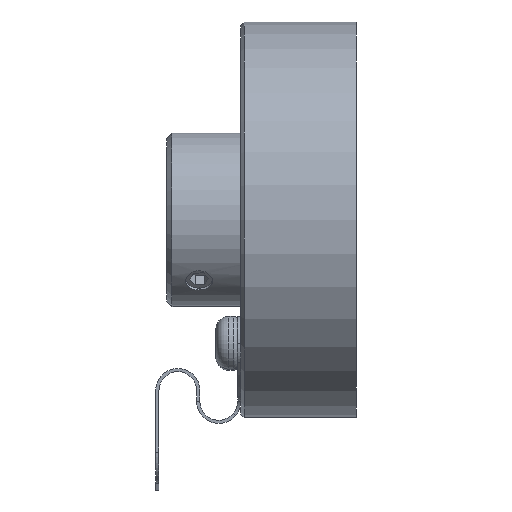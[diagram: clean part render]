
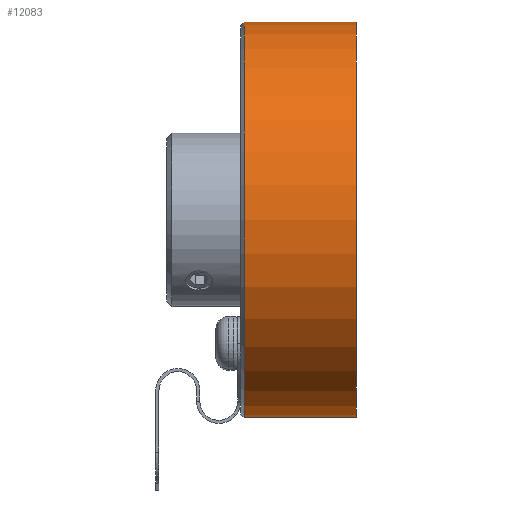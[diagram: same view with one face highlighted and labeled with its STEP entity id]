
A CAD part, front view. The second image highlights one B-rep face of the part: STEP entity #12083.
In plain terms, the highlighted cylindrical face has radius 18.25 mm (diameter 36.5 mm), a partial arc.
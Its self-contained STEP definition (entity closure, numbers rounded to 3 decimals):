
#413 = LINE ( 'NONE', #8073, #12567 ) ;
#558 = VECTOR ( 'NONE', #1998, 1000. ) ;
#788 = CARTESIAN_POINT ( 'NONE',  ( -1.3, 0., -18.25 ) ) ;
#851 = AXIS2_PLACEMENT_3D ( 'NONE', #8011, #1728, #9037 ) ;
#1276 = ORIENTED_EDGE ( 'NONE', *, *, #6406, .T. ) ;
#1481 = CYLINDRICAL_SURFACE ( 'NONE', #11554, 18.25 ) ;
#1728 = DIRECTION ( 'NONE',  ( -1., 0., 0. ) ) ;
#1998 = DIRECTION ( 'NONE',  ( -1., 0., 0. ) ) ;
#2505 = DIRECTION ( 'NONE',  ( 0., 0., 1. ) ) ;
#3105 = VERTEX_POINT ( 'NONE', #5950 ) ;
#3468 = CARTESIAN_POINT ( 'NONE',  ( -11.65, 0., 0. ) ) ;
#3892 = CARTESIAN_POINT ( 'NONE',  ( -11.65, 0., 18.25 ) ) ;
#4376 = EDGE_CURVE ( 'NONE', #9361, #9203, #11573, .T. ) ;
#4460 = EDGE_CURVE ( 'NONE', #7680, #3105, #8619, .T. ) ;
#4641 = DIRECTION ( 'NONE',  ( -1., 0., 0. ) ) ;
#5950 = CARTESIAN_POINT ( 'NONE',  ( -11.65, 0., -18.25 ) ) ;
#6402 = FACE_OUTER_BOUND ( 'NONE', #11951, .T. ) ;
#6406 = EDGE_CURVE ( 'NONE', #9203, #7680, #9094, .T. ) ;
#7130 = DIRECTION ( 'NONE',  ( -1., 0., 0. ) ) ;
#7453 = CARTESIAN_POINT ( 'NONE',  ( -1.3, 0., 18.25 ) ) ;
#7680 = VERTEX_POINT ( 'NONE', #3892 ) ;
#7889 = ORIENTED_EDGE ( 'NONE', *, *, #4460, .T. ) ;
#8011 = CARTESIAN_POINT ( 'NONE',  ( -1.3, 0., 0. ) ) ;
#8073 = CARTESIAN_POINT ( 'NONE',  ( -1000., 0., -18.25 ) ) ;
#8619 = CIRCLE ( 'NONE', #12907, 18.25 ) ;
#8867 = CARTESIAN_POINT ( 'NONE',  ( -1000., 0., 0. ) ) ;
#9037 = DIRECTION ( 'NONE',  ( 0., 0., 1. ) ) ;
#9094 = LINE ( 'NONE', #10286, #558 ) ;
#9203 = VERTEX_POINT ( 'NONE', #7453 ) ;
#9361 = VERTEX_POINT ( 'NONE', #788 ) ;
#9389 = EDGE_CURVE ( 'NONE', #9361, #3105, #413, .T. ) ;
#9431 = ORIENTED_EDGE ( 'NONE', *, *, #4376, .T. ) ;
#10286 = CARTESIAN_POINT ( 'NONE',  ( -1000., 0., 18.25 ) ) ;
#10735 = ORIENTED_EDGE ( 'NONE', *, *, #9389, .F. ) ;
#11043 = DIRECTION ( 'NONE',  ( 0., 0., 1. ) ) ;
#11554 = AXIS2_PLACEMENT_3D ( 'NONE', #8867, #4641, #11043 ) ;
#11573 = CIRCLE ( 'NONE', #851, 18.25 ) ;
#11951 = EDGE_LOOP ( 'NONE', ( #10735, #9431, #1276, #7889 ) ) ;
#12083 = ADVANCED_FACE ( 'NONE', ( #6402 ), #1481, .T. ) ;
#12567 = VECTOR ( 'NONE', #7130, 1000. ) ;
#12873 = DIRECTION ( 'NONE',  ( 1., 0., 0. ) ) ;
#12907 = AXIS2_PLACEMENT_3D ( 'NONE', #3468, #12873, #2505 ) ;
